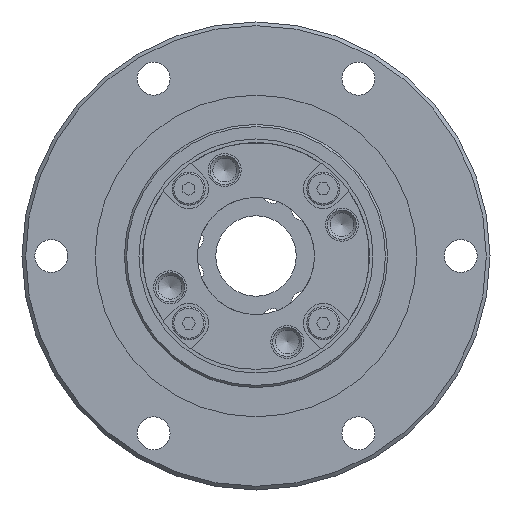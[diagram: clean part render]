
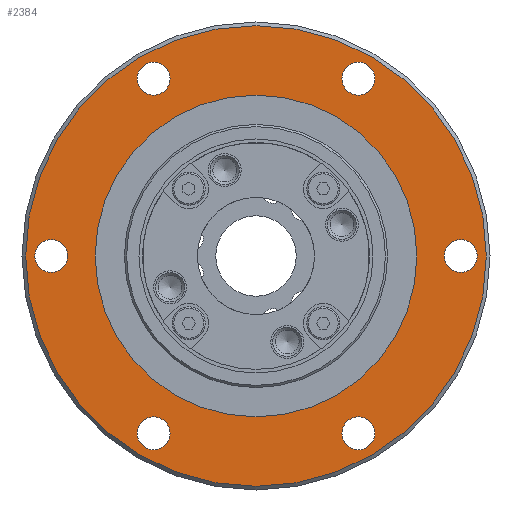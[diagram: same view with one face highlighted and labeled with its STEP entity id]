
A CAD part, left-side view. The second image highlights one B-rep face of the part: STEP entity #2384.
In plain terms, the highlighted planar face has unit normal (-1, 0, 0).
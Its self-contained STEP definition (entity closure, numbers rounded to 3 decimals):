
#104=PLANE('',#2685);
#250=CIRCLE('',#2686,31.5);
#251=CIRCLE('',#2687,2.25);
#252=CIRCLE('',#2688,2.25);
#253=CIRCLE('',#2689,2.25);
#254=CIRCLE('',#2690,2.25);
#255=CIRCLE('',#2691,2.25);
#256=CIRCLE('',#2692,2.25);
#257=CIRCLE('',#2693,22.);
#557=ORIENTED_EDGE('',*,*,#1042,.F.);
#558=ORIENTED_EDGE('',*,*,#1043,.T.);
#559=ORIENTED_EDGE('',*,*,#1044,.T.);
#560=ORIENTED_EDGE('',*,*,#1045,.T.);
#561=ORIENTED_EDGE('',*,*,#1046,.T.);
#562=ORIENTED_EDGE('',*,*,#1047,.T.);
#563=ORIENTED_EDGE('',*,*,#1048,.T.);
#564=ORIENTED_EDGE('',*,*,#1049,.T.);
#1042=EDGE_CURVE('',#1312,#1312,#250,.T.);
#1043=EDGE_CURVE('',#1313,#1313,#251,.T.);
#1044=EDGE_CURVE('',#1314,#1314,#252,.T.);
#1045=EDGE_CURVE('',#1315,#1315,#253,.T.);
#1046=EDGE_CURVE('',#1316,#1316,#254,.T.);
#1047=EDGE_CURVE('',#1317,#1317,#255,.T.);
#1048=EDGE_CURVE('',#1318,#1318,#256,.T.);
#1049=EDGE_CURVE('',#1319,#1319,#257,.T.);
#1312=VERTEX_POINT('',#4056);
#1313=VERTEX_POINT('',#4058);
#1314=VERTEX_POINT('',#4060);
#1315=VERTEX_POINT('',#4062);
#1316=VERTEX_POINT('',#4064);
#1317=VERTEX_POINT('',#4066);
#1318=VERTEX_POINT('',#4068);
#1319=VERTEX_POINT('',#4070);
#1769=EDGE_LOOP('',(#557));
#1770=EDGE_LOOP('',(#558));
#1771=EDGE_LOOP('',(#559));
#1772=EDGE_LOOP('',(#560));
#1773=EDGE_LOOP('',(#561));
#1774=EDGE_LOOP('',(#562));
#1775=EDGE_LOOP('',(#563));
#1776=EDGE_LOOP('',(#564));
#2071=FACE_BOUND('',#1769,.T.);
#2072=FACE_BOUND('',#1770,.T.);
#2073=FACE_BOUND('',#1771,.T.);
#2074=FACE_BOUND('',#1772,.T.);
#2075=FACE_BOUND('',#1773,.T.);
#2076=FACE_BOUND('',#1774,.T.);
#2077=FACE_BOUND('',#1775,.T.);
#2078=FACE_BOUND('',#1776,.T.);
#2384=ADVANCED_FACE('',(#2071,#2072,#2073,#2074,#2075,#2076,#2077,#2078),
#104,.F.);
#2685=AXIS2_PLACEMENT_3D('',#4054,#3220,#3221);
#2686=AXIS2_PLACEMENT_3D('',#4055,#3222,#3223);
#2687=AXIS2_PLACEMENT_3D('',#4057,#3224,#3225);
#2688=AXIS2_PLACEMENT_3D('',#4059,#3226,#3227);
#2689=AXIS2_PLACEMENT_3D('',#4061,#3228,#3229);
#2690=AXIS2_PLACEMENT_3D('',#4063,#3230,#3231);
#2691=AXIS2_PLACEMENT_3D('',#4065,#3232,#3233);
#2692=AXIS2_PLACEMENT_3D('',#4067,#3234,#3235);
#2693=AXIS2_PLACEMENT_3D('',#4069,#3236,#3237);
#3220=DIRECTION('',(1.,0.,0.));
#3221=DIRECTION('',(0.,0.,-1.));
#3222=DIRECTION('',(1.,0.,0.));
#3223=DIRECTION('',(0.,0.,-1.));
#3224=DIRECTION('',(1.,0.,0.));
#3225=DIRECTION('',(0.,0.,-1.));
#3226=DIRECTION('',(1.,0.,0.));
#3227=DIRECTION('',(0.,0.,-1.));
#3228=DIRECTION('',(1.,0.,0.));
#3229=DIRECTION('',(0.,0.,-1.));
#3230=DIRECTION('',(1.,0.,0.));
#3231=DIRECTION('',(0.,0.,-1.));
#3232=DIRECTION('',(1.,0.,0.));
#3233=DIRECTION('',(0.,0.,-1.));
#3234=DIRECTION('',(1.,0.,0.));
#3235=DIRECTION('',(0.,0.,-1.));
#3236=DIRECTION('',(1.,0.,0.));
#3237=DIRECTION('',(0.,0.,-1.));
#4054=CARTESIAN_POINT('',(10.,18.,0.));
#4055=CARTESIAN_POINT('',(10.,0.,0.));
#4056=CARTESIAN_POINT('',(10.,0.,-31.5));
#4057=CARTESIAN_POINT('',(10.,28.,0.));
#4058=CARTESIAN_POINT('',(10.,28.,-2.25));
#4059=CARTESIAN_POINT('',(10.,14.,24.249));
#4060=CARTESIAN_POINT('',(10.,14.,21.999));
#4061=CARTESIAN_POINT('',(10.,-14.,24.249));
#4062=CARTESIAN_POINT('',(10.,-14.,21.999));
#4063=CARTESIAN_POINT('',(10.,-28.,0.));
#4064=CARTESIAN_POINT('',(10.,-28.,-2.25));
#4065=CARTESIAN_POINT('',(10.,-14.,-24.249));
#4066=CARTESIAN_POINT('',(10.,-14.,-26.499));
#4067=CARTESIAN_POINT('',(10.,14.,-24.249));
#4068=CARTESIAN_POINT('',(10.,14.,-26.499));
#4069=CARTESIAN_POINT('',(10.,0.,0.));
#4070=CARTESIAN_POINT('',(10.,0.,-22.));
